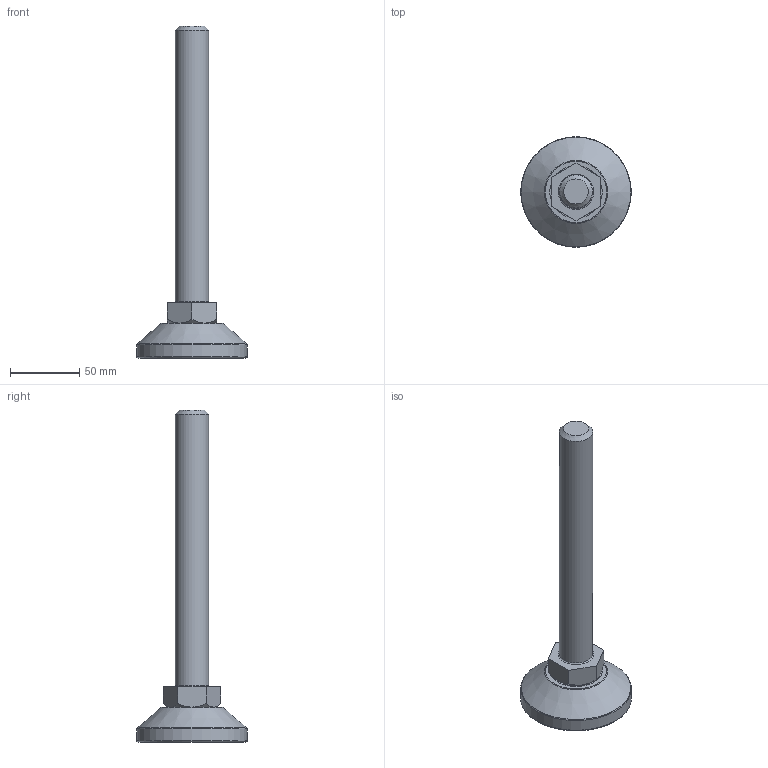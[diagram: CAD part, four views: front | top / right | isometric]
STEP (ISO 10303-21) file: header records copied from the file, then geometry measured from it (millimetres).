
FILE_DESCRIPTION(/* description */ (''),/* implementation_level */ '2;1');
FILE_NAME(/* name */ 'D:\조절자\FS\FS-M24-200L.stp',/* time_stamp */ '2016-03-14T14:41:31+09:00',/* author */ ('GS-DT-1-001'),/* organization */ (''),/* preprocessor_version */ 'ST-DEVELOPER v15.6',/* originating_system */ 'Autodesk Inventor LT ',/* authorisation */ '');
FILE_SCHEMA (('AUTOMOTIVE_DESIGN { 1 0 10303 214 3 1 1 }'));
Length unit declared in the file: millimetre
Products named in the file (1): FS-M24-200L
Bounding box: 80 x 80 x 240 mm (x, y, z)
Volume: 169871.3 mm3; surface area: 36148.5 mm2
Topology: 2 solids, 2 shells, 47 faces, 89 edges, 55 vertices
Faces by surface type: plane 19, cone 11, cylinder 10, torus 7
Full cylindrical faces by diameter (mm): 7.153 x1, 8.2 x1, 24 x1, 38 x1, 50 x1, 57 x1, 61 x1, 71 x1, 75 x1, 80 x1
Entity records: 1023 total; most frequent: DIRECTION 186, CARTESIAN_POINT 168, ORIENTED_EDGE 114, AXIS2_PLACEMENT_3D 87, EDGE_LOOP 86, EDGE_CURVE 57, VERTEX_POINT 51, FACE_OUTER_BOUND 47
